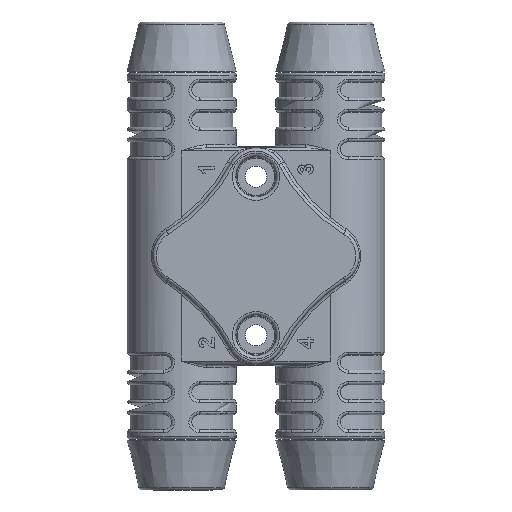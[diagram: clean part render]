
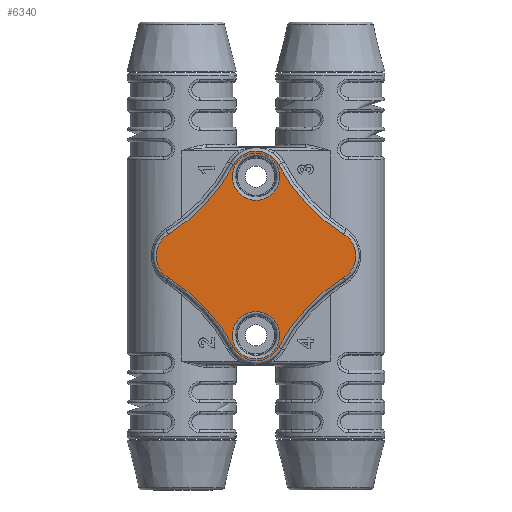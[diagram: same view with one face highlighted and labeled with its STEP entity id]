
A CAD part, front view. The second image highlights one B-rep face of the part: STEP entity #6340.
In plain terms, the highlighted planar face has unit normal (0, -1, 0).
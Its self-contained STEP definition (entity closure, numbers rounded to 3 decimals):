
#1114=PLANE('',#6731);
#1245=FACE_BOUND('',#1849,.T.);
#1246=FACE_BOUND('',#1850,.T.);
#1425=FACE_OUTER_BOUND('',#1848,.T.);
#1848=EDGE_LOOP('',(#4546,#4547,#4548,#4549,#4550,#4551,#4552,#4553));
#1849=EDGE_LOOP('',(#4554));
#1850=EDGE_LOOP('',(#4555));
#2190=CIRCLE('',#6730,4.77);
#2191=CIRCLE('',#6732,5.149);
#2192=CIRCLE('',#6733,35.851);
#2193=CIRCLE('',#6734,5.149);
#2194=CIRCLE('',#6735,35.851);
#2195=CIRCLE('',#6736,5.149);
#2196=CIRCLE('',#6737,35.851);
#2197=CIRCLE('',#6738,5.149);
#2198=CIRCLE('',#6739,35.851);
#2199=CIRCLE('',#6740,4.77);
#2722=VERTEX_POINT('',#10165);
#2723=VERTEX_POINT('',#10168);
#2724=VERTEX_POINT('',#10169);
#2725=VERTEX_POINT('',#10171);
#2726=VERTEX_POINT('',#10173);
#2727=VERTEX_POINT('',#10175);
#2728=VERTEX_POINT('',#10177);
#2729=VERTEX_POINT('',#10179);
#2730=VERTEX_POINT('',#10181);
#2731=VERTEX_POINT('',#10184);
#3400=EDGE_CURVE('',#2722,#2722,#2190,.T.);
#3401=EDGE_CURVE('',#2723,#2724,#2191,.T.);
#3402=EDGE_CURVE('',#2725,#2723,#2192,.T.);
#3403=EDGE_CURVE('',#2726,#2725,#2193,.T.);
#3404=EDGE_CURVE('',#2727,#2726,#2194,.T.);
#3405=EDGE_CURVE('',#2728,#2727,#2195,.T.);
#3406=EDGE_CURVE('',#2729,#2728,#2196,.T.);
#3407=EDGE_CURVE('',#2730,#2729,#2197,.T.);
#3408=EDGE_CURVE('',#2724,#2730,#2198,.T.);
#3409=EDGE_CURVE('',#2731,#2731,#2199,.T.);
#4546=ORIENTED_EDGE('',*,*,#3401,.F.);
#4547=ORIENTED_EDGE('',*,*,#3402,.F.);
#4548=ORIENTED_EDGE('',*,*,#3403,.F.);
#4549=ORIENTED_EDGE('',*,*,#3404,.F.);
#4550=ORIENTED_EDGE('',*,*,#3405,.F.);
#4551=ORIENTED_EDGE('',*,*,#3406,.F.);
#4552=ORIENTED_EDGE('',*,*,#3407,.F.);
#4553=ORIENTED_EDGE('',*,*,#3408,.F.);
#4554=ORIENTED_EDGE('',*,*,#3409,.F.);
#4555=ORIENTED_EDGE('',*,*,#3400,.F.);
#6340=ADVANCED_FACE('',(#1425,#1245,#1246),#1114,.F.);
#6730=AXIS2_PLACEMENT_3D('',#10166,#7667,#7668);
#6731=AXIS2_PLACEMENT_3D('',#10167,#7669,#7670);
#6732=AXIS2_PLACEMENT_3D('',#10170,#7671,#7672);
#6733=AXIS2_PLACEMENT_3D('',#10172,#7673,#7674);
#6734=AXIS2_PLACEMENT_3D('',#10174,#7675,#7676);
#6735=AXIS2_PLACEMENT_3D('',#10176,#7677,#7678);
#6736=AXIS2_PLACEMENT_3D('',#10178,#7679,#7680);
#6737=AXIS2_PLACEMENT_3D('',#10180,#7681,#7682);
#6738=AXIS2_PLACEMENT_3D('',#10182,#7683,#7684);
#6739=AXIS2_PLACEMENT_3D('',#10183,#7685,#7686);
#6740=AXIS2_PLACEMENT_3D('',#10185,#7687,#7688);
#7667=DIRECTION('center_axis',(0.,-1.,0.));
#7668=DIRECTION('ref_axis',(1.,0.,0.));
#7669=DIRECTION('center_axis',(0.,1.,0.));
#7670=DIRECTION('ref_axis',(0.,0.,1.));
#7671=DIRECTION('center_axis',(0.,1.,0.));
#7672=DIRECTION('ref_axis',(0.,0.,1.));
#7673=DIRECTION('center_axis',(0.,-1.,0.));
#7674=DIRECTION('ref_axis',(0.73,0.,-0.684));
#7675=DIRECTION('center_axis',(0.,1.,0.));
#7676=DIRECTION('ref_axis',(-1.,0.,0.));
#7677=DIRECTION('center_axis',(0.,-1.,0.));
#7678=DIRECTION('ref_axis',(0.73,0.,0.684));
#7679=DIRECTION('center_axis',(0.,1.,0.));
#7680=DIRECTION('ref_axis',(0.,0.,-1.));
#7681=DIRECTION('center_axis',(0.,-1.,0.));
#7682=DIRECTION('ref_axis',(-0.73,0.,0.684));
#7683=DIRECTION('center_axis',(0.,1.,0.));
#7684=DIRECTION('ref_axis',(1.,0.,0.));
#7685=DIRECTION('center_axis',(0.,-1.,0.));
#7686=DIRECTION('ref_axis',(-0.73,0.,-0.684));
#7687=DIRECTION('center_axis',(0.,-1.,0.));
#7688=DIRECTION('ref_axis',(1.,0.,0.));
#10165=CARTESIAN_POINT('',(10.23,-13.,-16.));
#10166=CARTESIAN_POINT('Origin',(15.,-13.,-16.));
#10167=CARTESIAN_POINT('Origin',(15.,-13.,0.));
#10168=CARTESIAN_POINT('',(10.439,-13.,18.389));
#10169=CARTESIAN_POINT('',(19.561,-13.,18.389));
#10170=CARTESIAN_POINT('Origin',(15.,-13.,16.));
#10171=CARTESIAN_POINT('',(-2.678,-13.,4.398));
#10172=CARTESIAN_POINT('Origin',(-21.321,-13.,35.02));
#10173=CARTESIAN_POINT('',(-2.678,-13.,-4.398));
#10174=CARTESIAN_POINT('Origin',(0.,-13.,0.));
#10175=CARTESIAN_POINT('',(10.439,-13.,-18.389));
#10176=CARTESIAN_POINT('Origin',(-21.321,-13.,-35.02));
#10177=CARTESIAN_POINT('',(19.561,-13.,-18.389));
#10178=CARTESIAN_POINT('Origin',(15.,-13.,-16.));
#10179=CARTESIAN_POINT('',(32.678,-13.,-4.398));
#10180=CARTESIAN_POINT('Origin',(51.321,-13.,-35.02));
#10181=CARTESIAN_POINT('',(32.678,-13.,4.398));
#10182=CARTESIAN_POINT('Origin',(30.,-13.,0.));
#10183=CARTESIAN_POINT('Origin',(51.321,-13.,35.02));
#10184=CARTESIAN_POINT('',(10.23,-13.,16.));
#10185=CARTESIAN_POINT('Origin',(15.,-13.,16.));
